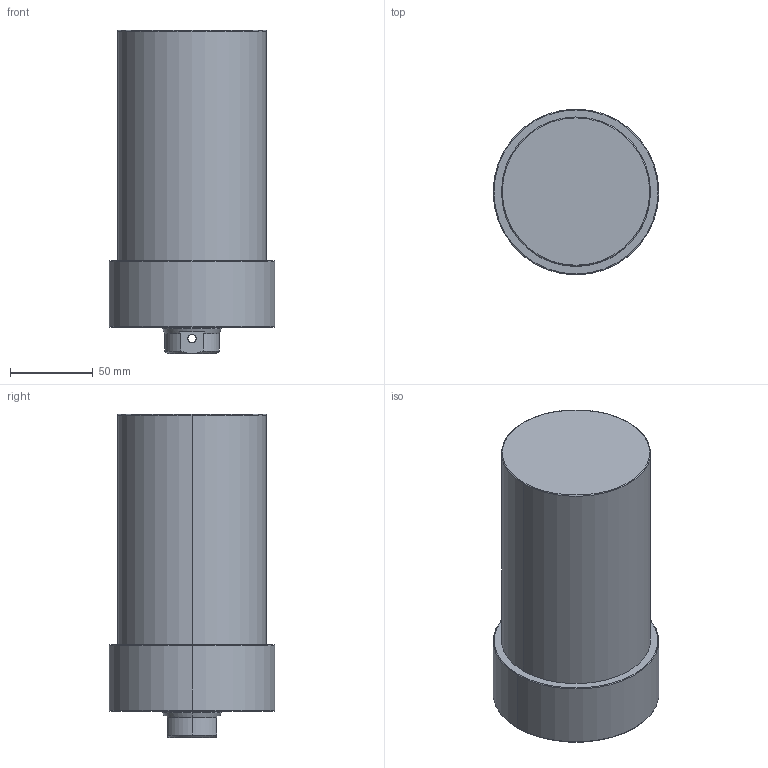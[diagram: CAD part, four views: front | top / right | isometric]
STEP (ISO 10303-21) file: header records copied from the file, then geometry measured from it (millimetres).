
FILE_DESCRIPTION (( 'STEP AP203' ), '1' );
FILE_NAME ('CLLU-090GB-095.STEP', '2020-01-13T05:50:10', ( '' ), ( '' ), 'SwSTEP 2.0', 'SolidWorks 2015', '' );
FILE_SCHEMA (( 'CONFIG_CONTROL_DESIGN' ));
Length unit declared in the file: millimetre
Products named in the file (1): CLLU-090GB-095
Bounding box: 100 x 100 x 195 mm (x, y, z)
Volume: 1191928 mm3; surface area: 74901.4 mm2
Topology: 1 solids, 1 shells, 68 faces, 155 edges, 88 vertices
Faces by surface type: cylinder 27, cone 25, plane 10, torus 6
Entity records: 2061 total; most frequent: CARTESIAN_POINT 462, DIRECTION 350, ORIENTED_EDGE 290, AXIS2_PLACEMENT_3D 148, EDGE_CURVE 145, VERTEX_POINT 88, EDGE_LOOP 81, CIRCLE 79
